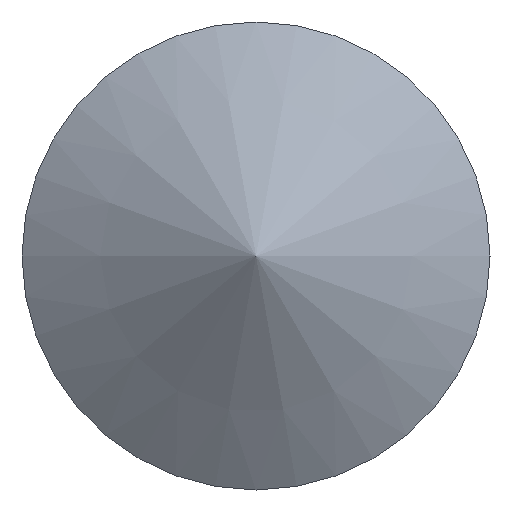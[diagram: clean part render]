
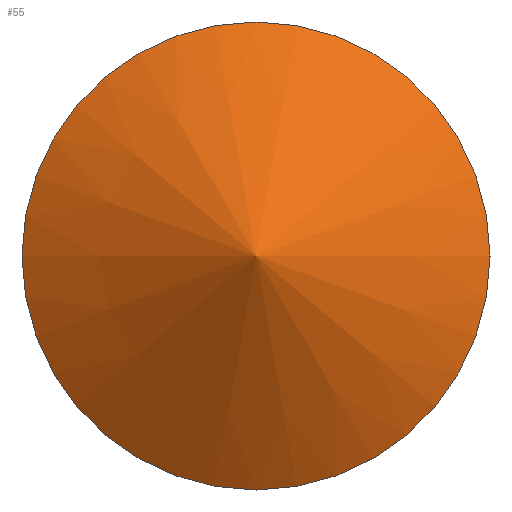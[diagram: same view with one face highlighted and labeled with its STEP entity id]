
A CAD part, left-side view. The second image highlights one B-rep face of the part: STEP entity #55.
In plain terms, the highlighted conical face has half-angle 59 degrees and reference radius 2 mm.
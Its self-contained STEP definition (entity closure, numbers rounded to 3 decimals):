
#17=FACE_OUTER_BOUND('',#20,.T.);
#20=EDGE_LOOP('',(#42,#43,#44,#45));
#23=LINE('',#110,#25);
#25=VECTOR('',#93,2.);
#27=CIRCLE('',#79,4.);
#28=CIRCLE('',#80,4.);
#31=VERTEX_POINT('',#105);
#32=VERTEX_POINT('',#106);
#33=VERTEX_POINT('',#109);
#36=EDGE_CURVE('',#31,#32,#27,.T.);
#37=EDGE_CURVE('',#32,#31,#28,.T.);
#38=EDGE_CURVE('',#32,#33,#23,.T.);
#42=ORIENTED_EDGE('',*,*,#36,.F.);
#43=ORIENTED_EDGE('',*,*,#37,.F.);
#44=ORIENTED_EDGE('',*,*,#38,.T.);
#45=ORIENTED_EDGE('',*,*,#38,.F.);
#54=CONICAL_SURFACE('',#78,2.,1.03);
#55=ADVANCED_FACE('',(#17),#54,.T.);
#78=AXIS2_PLACEMENT_3D('',#104,#87,#88);
#79=AXIS2_PLACEMENT_3D('',#107,#89,#90);
#80=AXIS2_PLACEMENT_3D('',#108,#91,#92);
#87=DIRECTION('center_axis',(1.,0.,0.));
#88=DIRECTION('ref_axis',(0.,1.,0.));
#89=DIRECTION('center_axis',(1.,0.,0.));
#90=DIRECTION('ref_axis',(0.,0.,-1.));
#91=DIRECTION('center_axis',(1.,0.,0.));
#92=DIRECTION('ref_axis',(0.,0.,-1.));
#93=DIRECTION('',(-0.515,0.857,0.));
#104=CARTESIAN_POINT('Origin',(-17.702,0.,0.));
#105=CARTESIAN_POINT('',(-16.5,4.,0.));
#106=CARTESIAN_POINT('',(-16.5,-4.,0.));
#107=CARTESIAN_POINT('Origin',(-16.5,0.,0.));
#108=CARTESIAN_POINT('Origin',(-16.5,0.,0.));
#109=CARTESIAN_POINT('',(-18.903,0.,0.));
#110=CARTESIAN_POINT('',(-17.702,-2.,0.));
